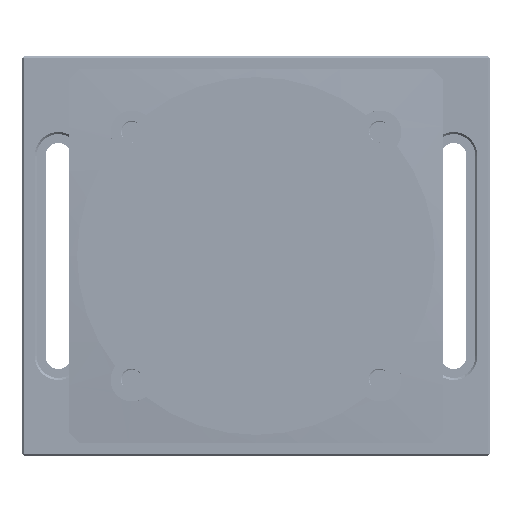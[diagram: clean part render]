
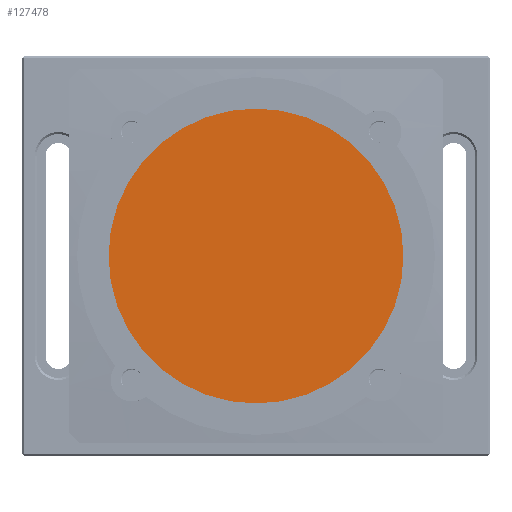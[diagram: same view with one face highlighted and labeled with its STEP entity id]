
A CAD part, front view. The second image highlights one B-rep face of the part: STEP entity #127478.
In plain terms, the highlighted planar face has unit normal (0, -1, 0) as drawn and (0, 1, 0) by its records, which use the part's own axes.
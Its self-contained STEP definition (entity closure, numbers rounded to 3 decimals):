
#126835=CARTESIAN_POINT('',(0.,-3.517,0.));
#126836=DIRECTION('',(0.,1.,0.));
#126837=DIRECTION('',(-1.,0.,0.));
#126838=AXIS2_PLACEMENT_3D('',#126835,#126836,#126837);
#126840=CARTESIAN_POINT('',(0.,-3.517,0.));
#126841=DIRECTION('',(0.,1.,0.));
#126842=DIRECTION('',(1.,0.,0.));
#126843=AXIS2_PLACEMENT_3D('',#126840,#126841,#126842);
#127317=CARTESIAN_POINT('',(-37.5,-3.517,0.));
#127318=CARTESIAN_POINT('',(37.5,-3.517,0.));
#127319=VERTEX_POINT('',#127317);
#127320=VERTEX_POINT('',#127318);
#127469=CARTESIAN_POINT('',(0.,-3.517,0.));
#127470=DIRECTION('',(0.,1.,0.));
#127471=DIRECTION('',(-1.,0.,0.));
#127472=AXIS2_PLACEMENT_3D('',#127469,#127470,#127471);
#127473=PLANE('',#127472);
#127474=ORIENTED_EDGE('',*,*,#127449,.F.);
#127475=ORIENTED_EDGE('',*,*,#127463,.F.);
#127476=EDGE_LOOP('',(#127474,#127475));
#127477=FACE_OUTER_BOUND('',#127476,.F.);
#127478=ADVANCED_FACE('',(#127477),#127473,.T.);
#126839=CIRCLE('',#126838,37.5);
#126844=CIRCLE('',#126843,37.5);
#127449=EDGE_CURVE('',#127319,#127320,#126839,.T.);
#127463=EDGE_CURVE('',#127320,#127319,#126844,.T.);
